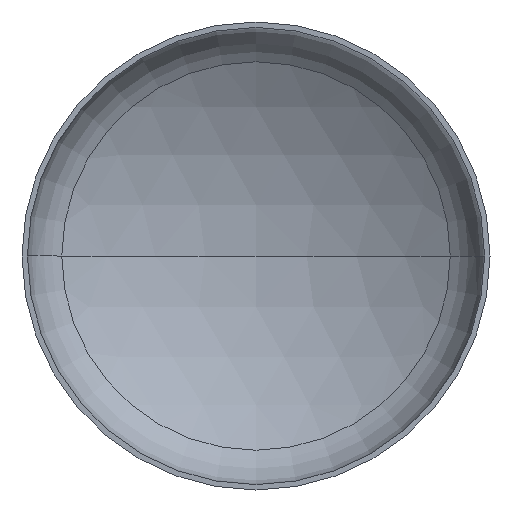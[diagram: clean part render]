
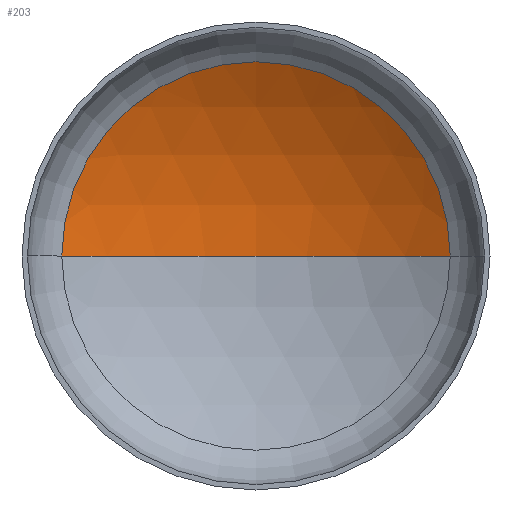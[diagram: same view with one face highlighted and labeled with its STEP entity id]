
A CAD part, front view. The second image highlights one B-rep face of the part: STEP entity #203.
In plain terms, the highlighted spherical face has radius 1520 mm.
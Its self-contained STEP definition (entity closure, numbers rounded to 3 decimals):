
#2 = AXIS2_PLACEMENT_3D ( 'NONE', #227, #79, #239 ) ;
#6 = CIRCLE ( 'NONE', #29, 788.423 ) ;
#18 = AXIS2_PLACEMENT_3D ( 'NONE', #190, #302, #183 ) ;
#25 = ORIENTED_EDGE ( 'NONE', *, *, #346, .T. ) ;
#29 = AXIS2_PLACEMENT_3D ( 'NONE', #151, #270, #314 ) ;
#72 = EDGE_CURVE ( 'NONE', #116, #388, #6, .T. ) ;
#79 = DIRECTION ( 'NONE',  ( 0., 0., -1. ) ) ;
#94 = VERTEX_POINT ( 'NONE', #310 ) ;
#115 = ORIENTED_EDGE ( 'NONE', *, *, #72, .T. ) ;
#116 = VERTEX_POINT ( 'NONE', #316 ) ;
#122 = ORIENTED_EDGE ( 'NONE', *, *, #352, .F. ) ;
#129 = SPHERICAL_SURFACE ( 'NONE', #18, 1520. ) ;
#145 = DIRECTION ( 'NONE',  ( 1., 0., 0. ) ) ;
#151 = CARTESIAN_POINT ( 'NONE',  ( 0., 317.937, 0. ) ) ;
#167 = CARTESIAN_POINT ( 'NONE',  ( -788.423, 317.937, 0. ) ) ;
#174 = EDGE_LOOP ( 'NONE', ( #122, #25, #115 ) ) ;
#183 = DIRECTION ( 'NONE',  ( -1., 0., 0. ) ) ;
#190 = CARTESIAN_POINT ( 'NONE',  ( 0., -981.597, 0. ) ) ;
#203 = ADVANCED_FACE ( 'NONE', ( #406 ), #129, .F. ) ;
#227 = CARTESIAN_POINT ( 'NONE',  ( 0., -981.597, 0. ) ) ;
#239 = DIRECTION ( 'NONE',  ( -1., 0., 0. ) ) ;
#265 = AXIS2_PLACEMENT_3D ( 'NONE', #361, #369, #145 ) ;
#270 = DIRECTION ( 'NONE',  ( 0., -1., 0. ) ) ;
#302 = DIRECTION ( 'NONE',  ( 0., 0., -1. ) ) ;
#310 = CARTESIAN_POINT ( 'NONE',  ( 0., 538.403, 0. ) ) ;
#314 = DIRECTION ( 'NONE',  ( 1., 0., 0. ) ) ;
#316 = CARTESIAN_POINT ( 'NONE',  ( 788.423, 317.937, 0. ) ) ;
#346 = EDGE_CURVE ( 'NONE', #94, #116, #383, .T. ) ;
#352 = EDGE_CURVE ( 'NONE', #94, #388, #376, .T. ) ;
#361 = CARTESIAN_POINT ( 'NONE',  ( 0., -981.597, 0. ) ) ;
#369 = DIRECTION ( 'NONE',  ( 0., 0., 1. ) ) ;
#376 = CIRCLE ( 'NONE', #265, 1520. ) ;
#383 = CIRCLE ( 'NONE', #2, 1520. ) ;
#388 = VERTEX_POINT ( 'NONE', #167 ) ;
#406 = FACE_OUTER_BOUND ( 'NONE', #174, .T. ) ;
